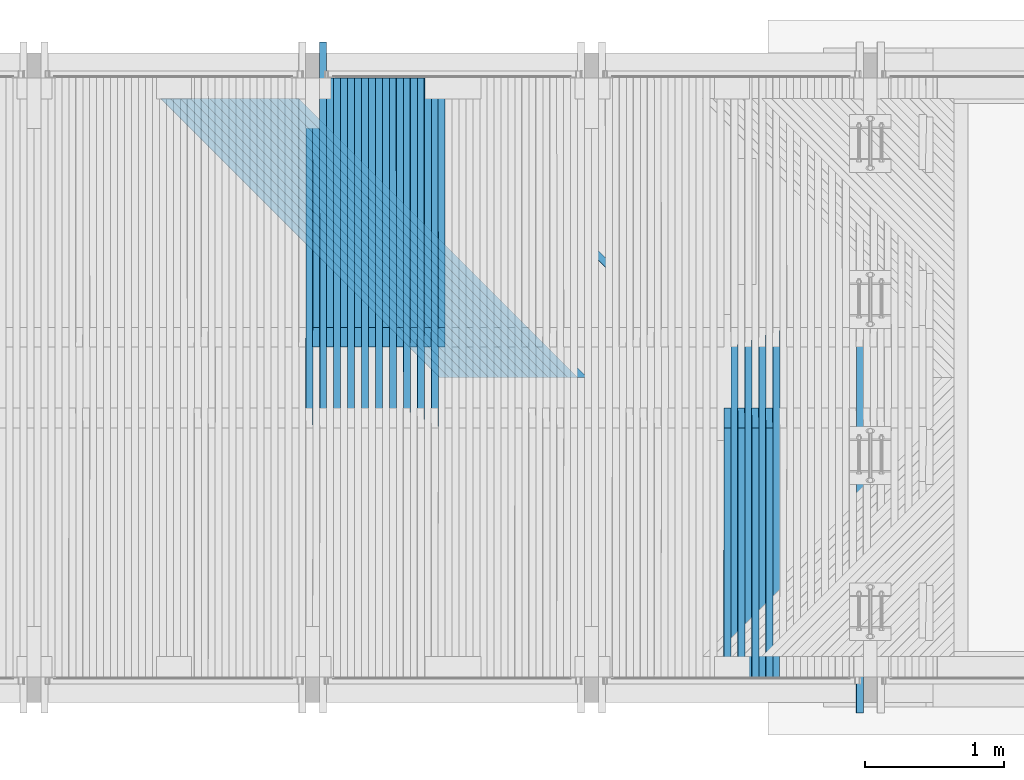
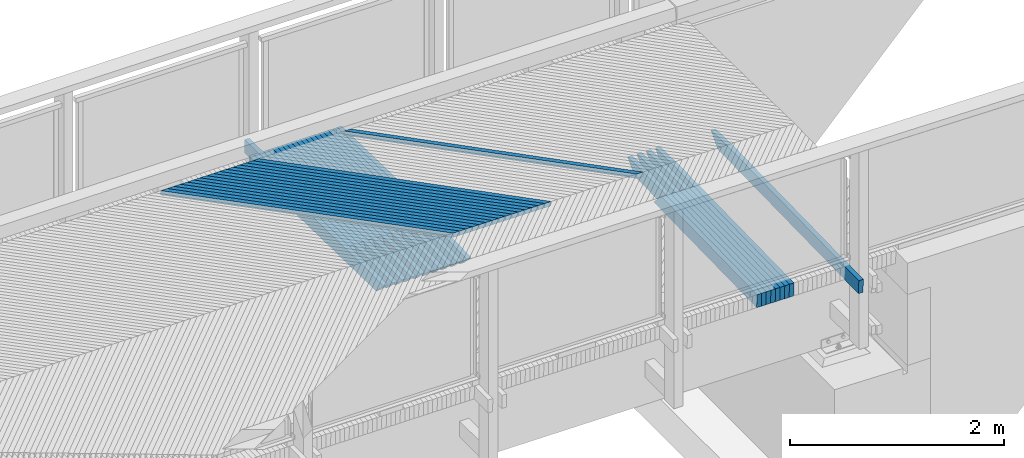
# One storey, part 43 of 65: 45 beams.
"""IFC2X3 building model written with IfcOpenShell, lengths in millimetres."""

import ifcopenshell
import ifcopenshell.guid

model = None  # the IFC model being written
_history = None  # IfcOwnerHistory: only IFC2X3 demands one
_inside = {}  # id of a spatial element -> (the spatial element, [elements in it])
_under = {}  # id of a project, library or spatial element -> (it, [spatial elements below it])
_declared = {}  # id of a project -> (the project, [libraries it declares])
_typed = {}  # id of a type object -> (the type object, [elements of that type])
_made_of = {}  # id of a material, layer set ... -> (it, [elements and type objects made of it])


def new_model(schema):
    """Start an empty IFC model of exactly this schema.

    Asked for "IFC4X3", IfcOpenShell would pick the latest addendum, in which some entities
    have other attributes; the version numbers below select the first issue.
    IFC2X3 requires an IfcOwnerHistory on every rooted entity: one is made here for all.
    """
    global model, _history
    if schema == "IFC4X3":
        model = ifcopenshell.file(schema_version=(4, 3, 0, 0))
    else:
        model = ifcopenshell.file(schema=schema)
    _inside.clear()
    _under.clear()
    _declared.clear()
    _typed.clear()
    _made_of.clear()
    _history = None
    if model.schema == "IFC2X3":
        org = make("IfcOrganization", Name="unknown")
        user = make(
            "IfcPersonAndOrganization",
            ThePerson=make("IfcPerson", FamilyName="unknown"),
            TheOrganization=org,
        )
        app = make(
            "IfcApplication",
            ApplicationDeveloper=org,
            Version="unknown",
            ApplicationFullName="unknown",
            ApplicationIdentifier="unknown",
        )
        _history = make(
            "IfcOwnerHistory",
            OwningUser=user,
            OwningApplication=app,
            ChangeAction="ADDED",
            CreationDate=0,
        )
    return model


def make(cls, **values):
    """One entity of the class cls with the attributes given. An attribute that is None is left unset."""
    return model.create_entity(
        cls, **{name: value for name, value in values.items() if value is not None}
    )


def rooted(cls, **values):
    """An entity with a GlobalId (a new one), such as an element, a storey or a relation."""
    return make(cls, GlobalId=ifcopenshell.guid.new(), OwnerHistory=_history, **values)


def si_unit(unit_type, name, prefix=None):
    """IfcSIUnit, for example si_unit("LENGTHUNIT", "METRE", prefix="MILLI")."""
    return make("IfcSIUnit", UnitType=unit_type, Prefix=prefix, Name=name)


def assignment(units):
    """IfcUnitAssignment: the units of a project."""
    return None if units is None else make("IfcUnitAssignment", Units=units)


def point(xyz):
    """IfcCartesianPoint."""
    return None if xyz is None else make("IfcCartesianPoint", Coordinates=xyz)


def direction(xyz):
    """IfcDirection."""
    return None if xyz is None else make("IfcDirection", DirectionRatios=xyz)


def frame(location, z_axis=None, x_axis=None):
    """IfcAxis2Placement3D, a coordinate frame: its origin and axes. An axis left out is left unset."""
    return make(
        "IfcAxis2Placement3D",
        Location=point(location),
        Axis=direction(z_axis),
        RefDirection=direction(x_axis),
    )


def origin_with_axes():
    """The frame at (0, 0, 0) with the z axis (0, 0, 1) and the x axis (1, 0, 0) written out."""
    return frame((0.0, 0.0, 0.0), z_axis=(0.0, 0.0, 1.0), x_axis=(1.0, 0.0, 0.0))


def place(relative_to, where):
    """IfcLocalPlacement: puts the frame where relative to a parent placement (None: the world)."""
    return make(
        "IfcLocalPlacement", PlacementRelTo=relative_to, RelativePlacement=where
    )


def context(
    kind, dimensions, precision=None, world=None, true_north=None, identifier=None
):
    """IfcGeometricRepresentationContext, for example the 3D "Model" context."""
    return make(
        "IfcGeometricRepresentationContext",
        ContextIdentifier=identifier,
        ContextType=kind,
        CoordinateSpaceDimension=dimensions,
        Precision=precision,
        WorldCoordinateSystem=world,
        TrueNorth=true_north,
    )


def subcontext(parent, identifier, kind, view, scale=None):
    """IfcGeometricRepresentationSubContext, for example "Body" below "Model"."""
    return make(
        "IfcGeometricRepresentationSubContext",
        ContextIdentifier=identifier,
        ContextType=kind,
        ParentContext=parent,
        TargetScale=scale,
        TargetView=view,
    )


def project(units=None, contexts=None):
    """IfcProject with its units and contexts."""
    return rooted(
        "IfcProject",
        Name="project",
        RepresentationContexts=contexts,
        UnitsInContext=assignment(units),
    )


def spatial(cls, under=None, at=None, **own):
    """A site, building, storey or space (cls), placed at a placement, below another one or the project."""
    s = rooted(cls, ObjectPlacement=at, **own)
    if under is not None:
        _under.setdefault(under.id(), (under, []))[1].append(s)
    return s


def faces_of(points, faces, orient=None, outer=None):
    """IfcFace entities. A face is a list of loops; a loop is a list of indices into points, from 0.

    orient and outer hold one flag for each loop. By default every Orientation is true, the
    first loop of a face is its IfcFaceOuterBound and the others are IfcFaceBound.
    """
    made = []
    for i, loops in enumerate(faces):
        bounds = []
        for j, loop in enumerate(loops):
            is_outer = j == 0 if outer is None else outer[i][j]
            bounds.append(
                make(
                    "IfcFaceOuterBound" if is_outer else "IfcFaceBound",
                    Bound=make("IfcPolyLoop", Polygon=[points[k] for k in loop]),
                    Orientation=True if orient is None else orient[i][j],
                )
            )
        made.append(make("IfcFace", Bounds=bounds))
    return made


def faceted_brep(points, faces, orient=None, outer=None, voids=None):
    """IfcFacetedBrep: a solid bounded by flat faces; with voids (closed shells), ...WithVoids."""
    shared = [point(p) for p in points]
    hull = make("IfcClosedShell", CfsFaces=faces_of(shared, faces, orient, outer))
    if voids is None:
        return make("IfcFacetedBrep", Outer=hull)
    return make(
        "IfcFacetedBrepWithVoids",
        Outer=hull,
        Voids=[
            make(cls, CfsFaces=faces_of(shared, fs, o, b)) for cls, fs, o, b in voids
        ],
    )


def shape(context_of_items, identifier, shape_type, items):
    """IfcShapeRepresentation: the items that make up one representation, for example the "Body"."""
    return make(
        "IfcShapeRepresentation",
        ContextOfItems=context_of_items,
        RepresentationIdentifier=identifier,
        RepresentationType=shape_type,
        Items=items,
    )


def material(Name=None, Category=None):
    """IfcMaterial."""
    return make("IfcMaterial", Name=Name, Category=Category)


def made_of(thing, what):
    """Note that an element or type object is made of a material, layer set ...; save() writes the relation."""
    if what is not None:
        _made_of.setdefault(what.id(), (what, []))[1].append(thing)
    return thing


def type_object(cls, material=None, **own):
    """A type object (cls), such as IfcWallType, which elements share."""
    return made_of(rooted(cls, **own), material)


def element(
    cls,
    number,
    at=None,
    inside=None,
    cuts=None,
    type_object=None,
    material=None,
    context=None,
    identifier="Body",
    shape_type=None,
    held_by="IfcProductDefinitionShape",
    body=None,
    shapes=None,
    **own,
):
    """One element of the class cls, such as IfcWall. Its Tag is "e" and its number.

    at: its placement. inside: the storey or other place that contains it. cuts: it is an
    opening in that element (IfcRelVoidsElement). A single representation is given by context,
    identifier, shape_type and body (its items); several are given by shapes. held_by: the class
    of the entity that holds the representations. save() writes the other relations.
    """
    e = rooted(cls, Tag="e%d" % number, ObjectPlacement=at, **own)
    if body is not None:
        shapes = [shape(context, identifier, shape_type, body)]
    if shapes is not None:
        e.Representation = make(held_by, Representations=shapes)
    if inside is not None:
        _inside.setdefault(inside.id(), (inside, []))[1].append(e)
    if cuts is not None:
        rooted(
            "IfcRelVoidsElement", RelatingBuildingElement=cuts, RelatedOpeningElement=e
        )
    if type_object is not None:
        _typed.setdefault(type_object.id(), (type_object, []))[1].append(e)
    return made_of(e, material)


def aggregate(whole, parts):
    """IfcRelAggregates: a whole, such as a stair, and the parts it consists of."""
    return rooted("IfcRelAggregates", RelatingObject=whole, RelatedObjects=parts)


def save(model, path):
    """Write the relations noted so far, then the file.

    IfcRelAggregates (storeys below a building ...), IfcRelContainedInSpatialStructure (elements
    in a storey), IfcRelDefinesByType, IfcRelAssociatesMaterial and IfcRelDeclares: one each for
    every whole, place, type object, material and project.
    """
    for whole, parts in _under.values():
        aggregate(whole, parts)
    for where, things in _inside.values():
        rooted(
            "IfcRelContainedInSpatialStructure",
            RelatedElements=things,
            RelatingStructure=where,
        )
    for kind, things in _typed.values():
        rooted("IfcRelDefinesByType", RelatedObjects=things, RelatingType=kind)
    for what, things in _made_of.values():
        rooted("IfcRelAssociatesMaterial", RelatedObjects=things, RelatingMaterial=what)
    for by, libraries in _declared.values():
        rooted("IfcRelDeclares", RelatingContext=by, RelatedDefinitions=libraries)
    model.write(path)


model = new_model("IFC2X3")

# Units and contexts
model_context = context("Model", 3, precision=1e-05, world=origin_with_axes())
body_context = subcontext(model_context, "Body", "Model", "MODEL_VIEW")
ifc_project = project(units=[si_unit("LENGTHUNIT", "METRE", prefix="MILLI"), si_unit("AREAUNIT", "SQUARE_METRE"), si_unit("VOLUMEUNIT", "CUBIC_METRE"), si_unit("MASSUNIT", "GRAM", prefix="KILO"), si_unit("TIMEUNIT", "SECOND"), si_unit("PLANEANGLEUNIT", "RADIAN"), si_unit("SOLIDANGLEUNIT", "STERADIAN"), si_unit("THERMODYNAMICTEMPERATUREUNIT", "DEGREE_CELSIUS"), si_unit("LUMINOUSINTENSITYUNIT", "LUMEN")], contexts=[model_context])

# Site, building, storey
site_placement = place(None, origin_with_axes())
site = spatial("IfcSite", under=ifc_project, at=site_placement, Name="Undefined", CompositionType="ELEMENT")
building_placement = place(site_placement, origin_with_axes())
building = spatial("IfcBuilding", under=site, at=building_placement, Name="Undefined", CompositionType="ELEMENT")
storey_placement = place(building_placement, origin_with_axes())
storey = spatial("IfcBuildingStorey", under=building, at=storey_placement, Name="Undefined", CompositionType="ELEMENT", Elevation=0.0)

# Beams
ifc_material = material(Name="TIMBER/Timber_Undefined")
beam_type_1 = type_object("IfcBeamType", Name="50*50", PredefinedType="NOTDEFINED")
for number, where, z_axis, x_axis, name in (
    (1, (14925.1802800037, 22365.4998996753, 3196.29569063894), (0.706919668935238, 0.706981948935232, -0.0210025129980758), (-0.707227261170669, 0.706948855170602, -0.00727442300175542), "BEAM"),
    (2, (13935.0975862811, 22365.4998996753, 3206.86972998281), (0.706953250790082, 0.706981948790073, -0.019839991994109), (-0.707214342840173, 0.706948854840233, -0.00843741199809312), "BEAM"),
    (3, (13864.3767480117, 22365.4998996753, 3207.56271699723), (0.706955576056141, 0.706981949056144, -0.019756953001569), (-0.707213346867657, 0.706948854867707, -0.00852048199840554), "BEAM"),
    (4, (13793.6558288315, 22365.4998996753, 3208.24739709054), (0.706957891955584, 0.706981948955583, -0.019673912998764), (-0.70721234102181, 0.706948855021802, -0.00860355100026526), "BEAM"),
    (5, (13722.9348297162, 22365.4998996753, 3208.92377025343), (0.706960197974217, 0.706981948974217, -0.0195908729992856), (-0.7072113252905, 0.706948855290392, -0.00868662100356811), "BEAM"),
    (6, (13652.2137516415, 22365.4998996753, 3209.5918364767), (0.70696249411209, 0.706981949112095, -0.0195078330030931), (-0.707210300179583, 0.706948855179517, -0.0087696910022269), "BEAM"),
    (7, (13581.4925955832, 22365.4998996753, 3210.25159575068), (0.706964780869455, 0.706981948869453, -0.0194247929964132), (-0.707209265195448, 0.706948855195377, -0.00885276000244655), "BEAM"),
    (8, (13510.771362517, 22365.4998996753, 3210.90304806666), (0.706967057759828, 0.706981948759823, -0.019341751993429), (-0.707208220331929, 0.706948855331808, -0.00893582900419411), "BEAM"),
    (9, (13440.0500534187, 22365.4998996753, 3211.54619341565), (0.706969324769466, 0.706981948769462, -0.0192587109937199), (-0.707207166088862, 0.706948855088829, -0.00901889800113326), "BEAM"),
    (10, (13369.3286692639, 22365.4998996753, 3212.18103178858), (0.706971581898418, 0.706981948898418, -0.0191756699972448), (-0.707206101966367, 0.70694885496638, -0.00910196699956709), "BEAM"),
    (11, (13298.6072110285, 22365.4998996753, 3212.80756317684), (0.706973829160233, 0.706981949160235, -0.0190926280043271), (-0.707205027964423, 0.706948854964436, -0.00918503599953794), "BEAM"),
    (12, (13227.8856796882, 22365.4998996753, 3213.42578757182), (0.706976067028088, 0.70698194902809, -0.0190095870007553), (-0.707203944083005, 0.706948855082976, -0.00926810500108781), "BEAM"),
    (13, (13157.1640762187, 22365.4998996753, 3214.03570496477), (0.70697829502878, 0.70698194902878, -0.0189265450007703), (-0.707202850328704, 0.706948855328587, -0.00935117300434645), "BEAM"),
    (14, (13086.4424015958, 22365.4998996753, 3214.63731534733), (0.706980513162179, 0.70698194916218, -0.0188435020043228), (-0.707201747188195, 0.706948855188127, -0.00943424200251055), "BEAM"),
    (15, (13015.7206567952, 22365.4998996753, 3215.23061871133), (0.706982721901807, 0.706981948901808, -0.0187604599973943), (-0.707200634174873, 0.706948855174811, -0.00951731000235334), "BEAM"),
    (16, (12944.9988427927, 22365.4998996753, 3215.81561504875), (0.706984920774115, 0.706981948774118, -0.0186774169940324), (-0.707199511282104, 0.706948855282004, -0.00960037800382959), "BEAM"),
):
    element("IfcBeam", number, at=place(storey_placement, frame(where, z_axis=z_axis, x_axis=x_axis)), inside=storey, type_object=beam_type_1, material=ifc_material, Name=name, ObjectType="50*50", context=body_context, shape_type="Brep", body=[
        faceted_brep([(23.5869248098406, 24.9999999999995, -24.9999999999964), (-26.4154158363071, 24.9999999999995, 24.9999999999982), (2802.92643296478, 25.0, 25.0), (2852.92877373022, 25.0000000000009, -25.0), (-25.0011704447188, -25.0, 24.9999999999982), (2804.34067830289, -25.0, 25.0000000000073), (25.0011701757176, -25.0000000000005, -24.9999999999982), (2854.34301907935, -24.9999999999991, -25.0000000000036)], [[[0, 1, 2, 3]], [[1, 4, 5, 2]], [[4, 6, 7, 5]], [[6, 0, 3, 7]], [[5, 7, 3, 2]], [[6, 4, 1, 0]]]),
    ])
beam_type_2 = type_object("IfcBeamType", Name="150*50", PredefinedType="NOTDEFINED")
beam_1_placement = place(storey_placement, frame((15274.6563525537, 20216.5046076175, 3049.1800909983), z_axis=(0.0120050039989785, -0.0199960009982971, 0.999727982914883), x_axis=(0.000240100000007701, 0.999800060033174, 0.0199945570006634)))
element("IfcBeam", 17, at=beam_1_placement, inside=storey, type_object=beam_type_2, material=ifc_material, Name="BEAM", ObjectType="150*50", context=body_context, shape_type="Brep", body=[
    faceted_brep([(-1.6778358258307e-07, -24.9999999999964, -74.9999999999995), (1.67790858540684e-07, -24.9999999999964, 75.0000000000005), (1.67790858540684e-07, 25.0000000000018, 74.9999999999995), (-1.6778358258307e-07, 25.0000000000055, -75.0), (1789.96936433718, -25.0000000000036, 74.9999999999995), (1789.96936408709, 24.9999999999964, 75.0), (1928.42646328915, 24.9999999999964, -75.0), (1928.42646353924, -25.0, -75.0000000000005)], [[[0, 1, 2, 3]], [[2, 1, 4, 5]], [[3, 2, 5, 6]], [[0, 3, 6, 7]], [[1, 0, 7, 4]], [[6, 5, 4, 7]]]),
])
beam_2_placement = place(storey_placement, frame((15324.672679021, 20216.5046076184, 3048.57117152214), z_axis=(0.0121711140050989, -0.0199960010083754, 0.999725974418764), x_axis=(0.000243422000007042, 0.999800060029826, 0.0199945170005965)))
element("IfcBeam", 18, at=beam_2_placement, inside=storey, type_object=beam_type_2, material=ifc_material, Name="BEAM", ObjectType="150*50", context=body_context, shape_type="Brep", body=[
    faceted_brep([(-1.6778358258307e-07, -24.9999999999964, -74.9999999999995), (1.67790858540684e-07, -24.9999999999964, 75.0000000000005), (1.67790858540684e-07, 25.0000000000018, 74.9999999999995), (-1.6778358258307e-07, 25.0000000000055, -75.0), (2375.00494422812, 25.0000000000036, -75.0), (2375.00494447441, -24.9999999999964, -74.9999999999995), (2510.59248714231, -24.9999999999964, 60.5875430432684), (2150.42514405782, -24.9999999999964, 75.0000000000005), (2150.42515052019, 25.0000000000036, 74.9999999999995), (2510.59248715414, 25.0000000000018, 60.5875433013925)], [[[0, 1, 2, 3]], [[0, 3, 4, 5]], [[1, 0, 5, 6, 7]], [[2, 1, 7, 8]], [[4, 3, 2, 8, 9]], [[5, 4, 9, 6]], [[6, 9, 8, 7]]]),
])
beam_3_placement = place(storey_placement, frame((15174.6435245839, 20216.5046076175, 3050.38050520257), z_axis=(0.0118388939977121, -0.0199960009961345, 0.999729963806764), x_axis=(0.0002367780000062, 0.999800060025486, 0.0199945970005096)))
element("IfcBeam", 19, at=beam_3_placement, inside=storey, type_object=beam_type_2, material=ifc_material, Name="BEAM", ObjectType="150*50", context=body_context, shape_type="Brep", body=[
    faceted_brep([(-1.6778358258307e-07, -24.9999999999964, -74.9999999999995), (1.67790858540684e-07, -24.9999999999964, 75.0000000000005), (1.67790858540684e-07, 25.0000000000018, 74.9999999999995), (-1.6778358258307e-07, 25.0000000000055, -75.0), (1789.96936433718, -25.0000000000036, 74.9999999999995), (1789.96936408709, 24.9999999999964, 75.0), (1928.42646328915, 24.9999999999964, -75.0), (1928.42646353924, -25.0, -75.0000000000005)], [[[0, 1, 2, 3]], [[2, 1, 4, 5]], [[3, 2, 5, 6]], [[0, 3, 6, 7]], [[1, 0, 7, 4]], [[6, 5, 4, 7]]]),
])
beam_4_placement = place(storey_placement, frame((15224.659951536, 20216.5046076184, 3049.77989621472), z_axis=(0.0120050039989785, -0.0199960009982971, 0.999727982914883), x_axis=(0.000240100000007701, 0.999800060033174, 0.0199945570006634)))
element("IfcBeam", 20, at=beam_4_placement, inside=storey, type_object=beam_type_2, material=ifc_material, Name="BEAM", ObjectType="150*50", context=body_context, shape_type="Brep", body=[
    faceted_brep([(-1.6778358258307e-07, -24.9999999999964, -74.9999999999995), (1.67790858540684e-07, -24.9999999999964, 75.0000000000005), (1.67790858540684e-07, 25.0000000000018, 74.9999999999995), (-1.6778358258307e-07, 25.0000000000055, -75.0), (2375.00494422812, 25.0000000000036, -75.0), (2375.00494447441, -24.9999999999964, -74.9999999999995), (2510.59248714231, -24.9999999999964, 60.5875430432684), (2150.42514405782, -24.9999999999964, 75.0000000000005), (2150.42515052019, 25.0000000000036, 74.9999999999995), (2510.59248715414, 25.0000000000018, 60.5875433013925)], [[[0, 1, 2, 3]], [[0, 3, 4, 5]], [[1, 0, 5, 6, 7]], [[2, 1, 7, 8]], [[4, 3, 2, 8, 9]], [[5, 4, 9, 6]], [[6, 9, 8, 7]]]),
])
beam_5_placement = place(storey_placement, frame((15074.6304985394, 20216.5046076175, 3051.56430172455), z_axis=(0.0116727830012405, -0.0199960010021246, 0.999731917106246), x_axis=(0.000233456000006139, 0.999800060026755, 0.0199946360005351)))
element("IfcBeam", 21, at=beam_5_placement, inside=storey, type_object=beam_type_2, material=ifc_material, Name="BEAM", ObjectType="150*50", context=body_context, shape_type="Brep", body=[
    faceted_brep([(-1.6778358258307e-07, -24.9999999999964, -74.9999999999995), (1.67790858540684e-07, -24.9999999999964, 75.0000000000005), (1.67790858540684e-07, 25.0000000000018, 74.9999999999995), (-1.6778358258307e-07, 25.0000000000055, -75.0), (1789.96936433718, -25.0000000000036, 74.9999999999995), (1789.96936408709, 24.9999999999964, 75.0), (1928.42646328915, 24.9999999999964, -75.0), (1928.42646353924, -25.0, -75.0000000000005)], [[[0, 1, 2, 3]], [[2, 1, 4, 5]], [[3, 2, 5, 6]], [[0, 3, 6, 7]], [[1, 0, 7, 4]], [[6, 5, 4, 7]]]),
])
beam_6_placement = place(storey_placement, frame((15124.6470245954, 20216.5046076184, 3050.97200324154), z_axis=(0.0118388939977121, -0.0199960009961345, 0.999729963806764), x_axis=(0.0002367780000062, 0.999800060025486, 0.0199945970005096)))
element("IfcBeam", 22, at=beam_6_placement, inside=storey, type_object=beam_type_2, material=ifc_material, Name="BEAM", ObjectType="150*50", context=body_context, shape_type="Brep", body=[
    faceted_brep([(-1.6778358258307e-07, -24.9999999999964, -74.9999999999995), (1.67790858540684e-07, -24.9999999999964, 75.0000000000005), (1.67790858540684e-07, 25.0000000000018, 74.9999999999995), (-1.6778358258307e-07, 25.0000000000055, -75.0), (2375.00494422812, 25.0000000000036, -75.0), (2375.00494447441, -24.9999999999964, -74.9999999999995), (2510.59248714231, -24.9999999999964, 60.5875430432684), (2150.42514405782, -24.9999999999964, 75.0000000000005), (2150.42515052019, 25.0000000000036, 74.9999999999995), (2510.59248715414, 25.0000000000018, 60.5875433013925)], [[[0, 1, 2, 3]], [[0, 3, 4, 5]], [[1, 0, 5, 6, 7]], [[2, 1, 7, 8]], [[4, 3, 2, 8, 9]], [[5, 4, 9, 6]], [[6, 9, 8, 7]]]),
])
beam_7_placement = place(storey_placement, frame((14974.6172771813, 20216.5046076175, 3052.73148053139), z_axis=(0.0115066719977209, -0.0199960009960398, 0.999733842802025), x_axis=(0.00023013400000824, 0.999800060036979, 0.0199946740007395)))
element("IfcBeam", 23, at=beam_7_placement, inside=storey, type_object=beam_type_2, material=ifc_material, Name="BEAM", ObjectType="150*50", context=body_context, shape_type="Brep", body=[
    faceted_brep([(-1.6778358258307e-07, -24.9999999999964, -74.9999999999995), (1.67790858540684e-07, -24.9999999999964, 75.0000000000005), (1.67790858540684e-07, 25.0000000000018, 74.9999999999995), (-1.6778358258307e-07, 25.0000000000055, -75.0), (1789.96936433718, -25.0000000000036, 74.9999999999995), (1789.96936408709, 24.9999999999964, 75.0), (1928.42646328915, 24.9999999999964, -75.0), (1928.42646353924, -25.0, -75.0000000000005)], [[[0, 1, 2, 3]], [[2, 1, 4, 5]], [[3, 2, 5, 6]], [[0, 3, 6, 7]], [[1, 0, 7, 4]], [[6, 5, 4, 7]]]),
])
beam_8_placement = place(storey_placement, frame((15024.6339009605, 20216.5046076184, 3052.14749256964), z_axis=(0.0116727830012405, -0.0199960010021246, 0.999731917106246), x_axis=(0.000233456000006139, 0.999800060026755, 0.0199946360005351)))
element("IfcBeam", 24, at=beam_8_placement, inside=storey, type_object=beam_type_2, material=ifc_material, Name="BEAM", ObjectType="150*50", context=body_context, shape_type="Brep", body=[
    faceted_brep([(-1.6778358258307e-07, -24.9999999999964, -74.9999999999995), (1.67790858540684e-07, -24.9999999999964, 75.0000000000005), (1.67790858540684e-07, 25.0000000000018, 74.9999999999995), (-1.6778358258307e-07, 25.0000000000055, -75.0), (2375.00494422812, 25.0000000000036, -75.0), (2375.00494447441, -24.9999999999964, -74.9999999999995), (2510.59248714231, -24.9999999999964, 60.5875430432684), (2150.42514405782, -24.9999999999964, 75.0000000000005), (2150.42515052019, 25.0000000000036, 74.9999999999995), (2510.59248715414, 25.0000000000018, 60.5875433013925)], [[[0, 1, 2, 3]], [[0, 3, 4, 5]], [[1, 0, 5, 6, 7]], [[2, 1, 7, 8]], [[4, 3, 2, 8, 9]], [[5, 4, 9, 6]], [[6, 9, 8, 7]]]),
])
beam_9_placement = place(storey_placement, frame((12874.8994002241, 24513.4953923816, 3073.40458690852), z_axis=(0.00801827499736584, 0.0199960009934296, 0.999767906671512), x_axis=(0.0001603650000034, -0.999800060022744, 0.0199953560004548)))
element("IfcBeam", 25, at=beam_9_placement, inside=storey, type_object=beam_type_2, material=ifc_material, Name="BEAM", ObjectType="150*50", context=body_context, shape_type="Brep", body=[
    faceted_brep([(-1.6778358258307e-07, -24.9999999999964, -74.9999999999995), (-1.6778358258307e-07, 25.0000000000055, -75.0), (2375.00494422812, 25.0000000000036, -75.0), (2375.00494447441, -24.9999999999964, -74.9999999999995), (1.67790858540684e-07, -24.9999999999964, 75.0000000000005), (1.67790858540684e-07, 25.0000000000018, 74.9999999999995), (2150.42515052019, 25.0000000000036, 74.9999999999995), (2510.59248715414, 25.0000000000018, 60.5875433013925), (2510.59248714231, -24.9999999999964, 60.5875430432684), (2150.42514405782, -24.9999999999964, 75.0000000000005)], [[[0, 1, 2, 3]], [[0, 4, 5, 1]], [[2, 1, 5, 6, 7]], [[3, 2, 7, 8]], [[4, 0, 3, 8, 9]], [[5, 4, 9, 6]], [[8, 7, 6, 9]]]),
])
beam_10_placement = place(storey_placement, frame((12924.9177572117, 24513.4953923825, 3072.99512326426), z_axis=(0.00818439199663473, 0.0199960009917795, 0.999766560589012), x_axis=(0.000163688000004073, -0.999800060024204, 0.019995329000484)))
element("IfcBeam", 26, at=beam_10_placement, inside=storey, type_object=beam_type_2, material=ifc_material, Name="BEAM", ObjectType="150*50", context=body_context, shape_type="Brep", body=[
    faceted_brep([(-1.6778358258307e-07, -24.9999999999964, -74.9999999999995), (1.67790858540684e-07, -24.9999999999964, 75.0000000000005), (1.67790858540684e-07, 25.0000000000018, 74.9999999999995), (-1.6778358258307e-07, 25.0000000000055, -75.0), (1789.96936408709, 24.9999999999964, 75.0), (1928.42646328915, 24.9999999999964, -75.0), (1928.42646353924, -25.0, -75.0000000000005), (1789.96936433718, -25.0000000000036, 74.9999999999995)], [[[0, 1, 2, 3]], [[3, 2, 4, 5]], [[0, 3, 5, 6]], [[1, 0, 6, 7]], [[2, 1, 7, 4]], [[5, 4, 7, 6]]]),
])
beam_11_placement = place(storey_placement, frame((12774.8825803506, 24513.4953923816, 3074.20626833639), z_axis=(0.00785215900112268, 0.0199960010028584, 0.99976922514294), x_axis=(0.00015704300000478, -0.999800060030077, 0.0199953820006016)))
element("IfcBeam", 27, at=beam_11_placement, inside=storey, type_object=beam_type_2, material=ifc_material, Name="BEAM", ObjectType="150*50", context=body_context, shape_type="Brep", body=[
    faceted_brep([(-1.6778358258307e-07, -24.9999999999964, -74.9999999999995), (-1.6778358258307e-07, 25.0000000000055, -75.0), (2375.00494422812, 25.0000000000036, -75.0), (2375.00494447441, -24.9999999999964, -74.9999999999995), (1.67790858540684e-07, -24.9999999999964, 75.0000000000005), (1.67790858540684e-07, 25.0000000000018, 74.9999999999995), (2150.42515052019, 25.0000000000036, 74.9999999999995), (2510.59248715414, 25.0000000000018, 60.5875433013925), (2510.59248714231, -24.9999999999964, 60.5875430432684), (2150.42514405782, -24.9999999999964, 75.0000000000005)], [[[0, 1, 2, 3]], [[0, 4, 5, 1]], [[2, 1, 5, 6, 7]], [[3, 2, 7, 8]], [[4, 0, 3, 8, 9]], [[5, 4, 9, 6]], [[8, 7, 6, 9]]]),
])
beam_12_placement = place(storey_placement, frame((12824.9010046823, 24513.4953923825, 3073.80511551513), z_axis=(0.00801827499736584, 0.0199960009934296, 0.999767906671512), x_axis=(0.0001603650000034, -0.999800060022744, 0.0199953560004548)))
element("IfcBeam", 28, at=beam_12_placement, inside=storey, type_object=beam_type_2, material=ifc_material, Name="BEAM", ObjectType="150*50", context=body_context, shape_type="Brep", body=[
    faceted_brep([(-1.6778358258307e-07, -24.9999999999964, -74.9999999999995), (1.67790858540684e-07, -24.9999999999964, 75.0000000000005), (1.67790858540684e-07, 25.0000000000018, 74.9999999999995), (-1.6778358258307e-07, 25.0000000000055, -75.0), (1789.96936408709, 24.9999999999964, 75.0), (1928.42646328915, 24.9999999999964, -75.0), (1928.42646353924, -25.0, -75.0000000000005), (1789.96936433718, -25.0000000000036, 74.9999999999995)], [[[0, 1, 2, 3]], [[3, 2, 4, 5]], [[0, 3, 5, 6]], [[1, 0, 6, 7]], [[2, 1, 7, 4]], [[5, 4, 7, 6]]]),
])
beam_13_placement = place(storey_placement, frame((12674.8656286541, 24513.4953923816, 3074.99133142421), z_axis=(0.00768604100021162, 0.0199960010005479, 0.999770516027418), x_axis=(0.000153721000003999, -0.999800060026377, 0.0199954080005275)))
element("IfcBeam", 29, at=beam_13_placement, inside=storey, type_object=beam_type_2, material=ifc_material, Name="BEAM", ObjectType="150*50", context=body_context, shape_type="Brep", body=[
    faceted_brep([(-1.6778358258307e-07, -24.9999999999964, -74.9999999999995), (-1.6778358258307e-07, 25.0000000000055, -75.0), (2375.00494422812, 25.0000000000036, -75.0), (2375.00494447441, -24.9999999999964, -74.9999999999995), (1.67790858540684e-07, -24.9999999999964, 75.0000000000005), (1.67790858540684e-07, 25.0000000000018, 74.9999999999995), (2150.42515052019, 25.0000000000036, 74.9999999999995), (2510.59248715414, 25.0000000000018, 60.5875433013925), (2510.59248714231, -24.9999999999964, 60.5875430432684), (2150.42514405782, -24.9999999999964, 75.0000000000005)], [[[0, 1, 2, 3]], [[0, 4, 5, 1]], [[2, 1, 5, 6, 7]], [[3, 2, 7, 8]], [[4, 0, 3, 8, 9]], [[5, 4, 9, 6]], [[8, 7, 6, 9]]]),
])
beam_14_placement = place(storey_placement, frame((12724.884118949, 24513.4953923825, 3074.5984894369), z_axis=(0.00785215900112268, 0.0199960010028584, 0.99976922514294), x_axis=(0.00015704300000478, -0.999800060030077, 0.0199953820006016)))
element("IfcBeam", 30, at=beam_14_placement, inside=storey, type_object=beam_type_2, material=ifc_material, Name="BEAM", ObjectType="150*50", context=body_context, shape_type="Brep", body=[
    faceted_brep([(-1.6778358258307e-07, -24.9999999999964, -74.9999999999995), (1.67790858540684e-07, -24.9999999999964, 75.0000000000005), (1.67790858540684e-07, 25.0000000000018, 74.9999999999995), (-1.6778358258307e-07, 25.0000000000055, -75.0), (1789.96936408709, 24.9999999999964, 75.0), (1928.42646328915, 24.9999999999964, -75.0), (1928.42646353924, -25.0, -75.0000000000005), (1789.96936433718, -25.0000000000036, 74.9999999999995)], [[[0, 1, 2, 3]], [[3, 2, 4, 5]], [[0, 3, 5, 6]], [[1, 0, 6, 7]], [[2, 1, 7, 4]], [[5, 4, 7, 6]]]),
])
beam_15_placement = place(storey_placement, frame((12574.8485478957, 24513.4953923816, 3075.75977614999), z_axis=(0.00751992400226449, 0.0199960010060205, 0.99977177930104), x_axis=(0.000150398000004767, -0.999800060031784, 0.0199954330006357)))
element("IfcBeam", 31, at=beam_15_placement, inside=storey, type_object=beam_type_2, material=ifc_material, Name="BEAM", ObjectType="150*50", context=body_context, shape_type="Brep", body=[
    faceted_brep([(-1.6778358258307e-07, -24.9999999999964, -74.9999999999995), (-1.6778358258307e-07, 25.0000000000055, -75.0), (2375.00494422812, 25.0000000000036, -75.0), (2375.00494447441, -24.9999999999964, -74.9999999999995), (1.67790858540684e-07, -24.9999999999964, 75.0000000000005), (1.67790858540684e-07, 25.0000000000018, 74.9999999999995), (2150.42515052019, 25.0000000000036, 74.9999999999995), (2510.59248715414, 25.0000000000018, 60.5875433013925), (2510.59248714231, -24.9999999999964, 60.5875430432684), (2150.42514405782, -24.9999999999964, 75.0000000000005)], [[[0, 1, 2, 3]], [[0, 4, 5, 1]], [[2, 1, 5, 6, 7]], [[3, 2, 7, 8]], [[4, 0, 3, 8, 9]], [[5, 4, 9, 6]], [[8, 7, 6, 9]]]),
])
beam_16_placement = place(storey_placement, frame((12624.8671027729, 24513.4953923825, 3075.37524500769), z_axis=(0.00768604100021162, 0.0199960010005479, 0.999770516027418), x_axis=(0.000153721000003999, -0.999800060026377, 0.0199954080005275)))
element("IfcBeam", 32, at=beam_16_placement, inside=storey, type_object=beam_type_2, material=ifc_material, Name="BEAM", ObjectType="150*50", context=body_context, shape_type="Brep", body=[
    faceted_brep([(-1.6778358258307e-07, -24.9999999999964, -74.9999999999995), (1.67790858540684e-07, -24.9999999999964, 75.0000000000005), (1.67790858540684e-07, 25.0000000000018, 74.9999999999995), (-1.6778358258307e-07, 25.0000000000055, -75.0), (1789.96936408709, 24.9999999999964, 75.0), (1928.42646328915, 24.9999999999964, -75.0), (1928.42646353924, -25.0, -75.0000000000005), (1789.96936433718, -25.0000000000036, 74.9999999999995)], [[[0, 1, 2, 3]], [[3, 2, 4, 5]], [[0, 3, 5, 6]], [[1, 0, 6, 7]], [[2, 1, 7, 4]], [[5, 4, 7, 6]]]),
])
beam_17_placement = place(storey_placement, frame((12474.8313408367, 24513.4953923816, 3076.51160249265), z_axis=(0.00735380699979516, 0.0199960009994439, 0.999773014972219), x_axis=(0.000147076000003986, -0.999800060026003, 0.01999545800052)))
element("IfcBeam", 33, at=beam_17_placement, inside=storey, type_object=beam_type_2, material=ifc_material, Name="BEAM", ObjectType="150*50", context=body_context, shape_type="Brep", body=[
    faceted_brep([(-1.6778358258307e-07, -24.9999999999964, -74.9999999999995), (-1.6778358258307e-07, 25.0000000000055, -75.0), (2375.00494422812, 25.0000000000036, -75.0), (2375.00494447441, -24.9999999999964, -74.9999999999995), (1.67790858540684e-07, -24.9999999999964, 75.0000000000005), (1.67790858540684e-07, 25.0000000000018, 74.9999999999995), (2150.42515052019, 25.0000000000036, 74.9999999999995), (2510.59248715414, 25.0000000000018, 60.5875433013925), (2510.59248714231, -24.9999999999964, 60.5875430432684), (2150.42514405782, -24.9999999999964, 75.0000000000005)], [[[0, 1, 2, 3]], [[0, 4, 5, 1]], [[2, 1, 5, 6, 7]], [[3, 2, 7, 8]], [[4, 0, 3, 8, 9]], [[5, 4, 9, 6]], [[8, 7, 6, 9]]]),
])
beam_18_placement = place(storey_placement, frame((12524.8499589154, 24513.4953923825, 3076.13538220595), z_axis=(0.00751992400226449, 0.0199960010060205, 0.99977177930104), x_axis=(0.000150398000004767, -0.999800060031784, 0.0199954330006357)))
element("IfcBeam", 34, at=beam_18_placement, inside=storey, type_object=beam_type_2, material=ifc_material, Name="BEAM", ObjectType="150*50", context=body_context, shape_type="Brep", body=[
    faceted_brep([(-1.6778358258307e-07, -24.9999999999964, -74.9999999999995), (1.67790858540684e-07, -24.9999999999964, 75.0000000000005), (1.67790858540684e-07, 25.0000000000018, 74.9999999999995), (-1.6778358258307e-07, 25.0000000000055, -75.0), (1789.96936408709, 24.9999999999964, 75.0), (1928.42646328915, 24.9999999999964, -75.0), (1928.42646353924, -25.0, -75.0000000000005), (1789.96936433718, -25.0000000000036, 74.9999999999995)], [[[0, 1, 2, 3]], [[3, 2, 4, 5]], [[0, 3, 5, 6]], [[1, 0, 6, 7]], [[2, 1, 7, 4]], [[5, 4, 7, 6]]]),
])
beam_19_placement = place(storey_placement, frame((12374.8140102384, 24513.4953923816, 3077.24681043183), z_axis=(0.00718768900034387, 0.0199960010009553, 0.999774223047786), x_axis=(0.000143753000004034, -0.999800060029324, 0.0199954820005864)))
element("IfcBeam", 35, at=beam_19_placement, inside=storey, type_object=beam_type_2, material=ifc_material, Name="BEAM", ObjectType="150*50", context=body_context, shape_type="Brep", body=[
    faceted_brep([(-1.6778358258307e-07, -24.9999999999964, -74.9999999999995), (-1.6778358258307e-07, 25.0000000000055, -75.0), (2375.00494422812, 25.0000000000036, -75.0), (2375.00494447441, -24.9999999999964, -74.9999999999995), (1.67790858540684e-07, -24.9999999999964, 75.0000000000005), (1.67790858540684e-07, 25.0000000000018, 74.9999999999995), (2150.42515052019, 25.0000000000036, 74.9999999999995), (2510.59248715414, 25.0000000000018, 60.5875433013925), (2510.59248714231, -24.9999999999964, 60.5875430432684), (2150.42514405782, -24.9999999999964, 75.0000000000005)], [[[0, 1, 2, 3]], [[0, 4, 5, 1]], [[2, 1, 5, 6, 7]], [[3, 2, 7, 8]], [[4, 0, 3, 8, 9]], [[5, 4, 9, 6]], [[8, 7, 6, 9]]]),
])
beam_20_placement = place(storey_placement, frame((12424.8326901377, 24513.4953923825, 3076.87890101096), z_axis=(0.00735380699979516, 0.0199960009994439, 0.999773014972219), x_axis=(0.000147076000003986, -0.999800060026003, 0.01999545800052)))
element("IfcBeam", 36, at=beam_20_placement, inside=storey, type_object=beam_type_2, material=ifc_material, Name="BEAM", ObjectType="150*50", context=body_context, shape_type="Brep", body=[
    faceted_brep([(-1.6778358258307e-07, -24.9999999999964, -74.9999999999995), (1.67790858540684e-07, -24.9999999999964, 75.0000000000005), (1.67790858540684e-07, 25.0000000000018, 74.9999999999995), (-1.6778358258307e-07, 25.0000000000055, -75.0), (1789.96936408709, 24.9999999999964, 75.0), (1928.42646328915, 24.9999999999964, -75.0), (1928.42646353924, -25.0, -75.0000000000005), (1789.96936433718, -25.0000000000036, 74.9999999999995)], [[[0, 1, 2, 3]], [[3, 2, 4, 5]], [[0, 3, 5, 6]], [[1, 0, 6, 7]], [[2, 1, 7, 4]], [[5, 4, 7, 6]]]),
])
beam_21_placement = place(storey_placement, frame((12274.796558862, 24513.4953923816, 3077.96539994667), z_axis=(0.00702157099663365, 0.0199960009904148, 0.999775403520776), x_axis=(0.000140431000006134, -0.999800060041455, 0.019995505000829)))
element("IfcBeam", 37, at=beam_21_placement, inside=storey, type_object=beam_type_2, material=ifc_material, Name="BEAM", ObjectType="150*50", context=body_context, shape_type="Brep", body=[
    faceted_brep([(-1.6778358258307e-07, -24.9999999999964, -74.9999999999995), (-1.6778358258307e-07, 25.0000000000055, -75.0), (2375.00494422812, 25.0000000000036, -75.0), (2375.00494447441, -24.9999999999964, -74.9999999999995), (1.67790858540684e-07, -24.9999999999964, 75.0000000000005), (1.67790858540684e-07, 25.0000000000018, 74.9999999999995), (2150.42515052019, 25.0000000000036, 74.9999999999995), (2510.59248715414, 25.0000000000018, 60.5875433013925), (2510.59248714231, -24.9999999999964, 60.5875430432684), (2150.42514405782, -24.9999999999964, 75.0000000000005)], [[[0, 1, 2, 3]], [[0, 4, 5, 1]], [[2, 1, 5, 6, 7]], [[3, 2, 7, 8]], [[4, 0, 3, 8, 9]], [[5, 4, 9, 6]], [[8, 7, 6, 9]]]),
])
beam_22_placement = place(storey_placement, frame((12324.8152992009, 24513.4953923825, 3077.60580140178), z_axis=(0.00718768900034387, 0.0199960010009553, 0.999774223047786), x_axis=(0.000143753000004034, -0.999800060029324, 0.0199954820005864)))
element("IfcBeam", 38, at=beam_22_placement, inside=storey, type_object=beam_type_2, material=ifc_material, Name="BEAM", ObjectType="150*50", context=body_context, shape_type="Brep", body=[
    faceted_brep([(-1.6778358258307e-07, -24.9999999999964, -74.9999999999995), (1.67790858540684e-07, -24.9999999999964, 75.0000000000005), (1.67790858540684e-07, 25.0000000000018, 74.9999999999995), (-1.6778358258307e-07, 25.0000000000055, -75.0), (1789.96936408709, 24.9999999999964, 75.0), (1928.42646328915, 24.9999999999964, -75.0), (1928.42646353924, -25.0, -75.0000000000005), (1789.96936433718, -25.0000000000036, 74.9999999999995)], [[[0, 1, 2, 3]], [[3, 2, 4, 5]], [[0, 3, 5, 6]], [[1, 0, 6, 7]], [[2, 1, 7, 4]], [[5, 4, 7, 6]]]),
])
beam_23_placement = place(storey_placement, frame((12174.7789894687, 24513.4953923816, 3078.66737101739), z_axis=(0.00685545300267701, 0.0199960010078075, 0.999776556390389), x_axis=(0.000137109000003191, -0.99980006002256, 0.0199955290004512)))
element("IfcBeam", 39, at=beam_23_placement, inside=storey, type_object=beam_type_2, material=ifc_material, Name="BEAM", ObjectType="150*50", context=body_context, shape_type="Brep", body=[
    faceted_brep([(-1.6778358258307e-07, -24.9999999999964, -74.9999999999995), (-1.6778358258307e-07, 25.0000000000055, -75.0), (2375.00494422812, 25.0000000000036, -75.0), (2375.00494447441, -24.9999999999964, -74.9999999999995), (1.67790858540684e-07, -24.9999999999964, 75.0000000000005), (1.67790858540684e-07, 25.0000000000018, 74.9999999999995), (2150.42515052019, 25.0000000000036, 74.9999999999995), (2510.59248715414, 25.0000000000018, 60.5875433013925), (2510.59248714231, -24.9999999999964, 60.5875430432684), (2150.42514405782, -24.9999999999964, 75.0000000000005)], [[[0, 1, 2, 3]], [[0, 4, 5, 1]], [[2, 1, 5, 6, 7]], [[3, 2, 7, 8]], [[4, 0, 3, 8, 9]], [[5, 4, 9, 6]], [[8, 7, 6, 9]]]),
])
for number, where, z_axis, x_axis, name in (
    (40, (12224.7977888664, 24513.4953923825, 3078.3160833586), (0.00702157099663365, 0.0199960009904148, 0.999775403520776), (0.000140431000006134, -0.999800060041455, 0.019995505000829), "BEAM"),
    (41, (12124.7801618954, 24513.4953923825, 3079.00974686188), (0.00685545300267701, 0.0199960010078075, 0.999776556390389), (0.000137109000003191, -0.99980006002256, 0.0199955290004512), "BEAM"),
):
    element("IfcBeam", number, at=place(storey_placement, frame(where, z_axis=z_axis, x_axis=x_axis)), inside=storey, type_object=beam_type_2, material=ifc_material, Name=name, ObjectType="150*50", context=body_context, shape_type="Brep", body=[
        faceted_brep([(-1.6778358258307e-07, -24.9999999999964, -74.9999999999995), (1.67790858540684e-07, -24.9999999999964, 75.0000000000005), (1.67790858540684e-07, 25.0000000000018, 74.9999999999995), (-1.6778358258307e-07, 25.0000000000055, -75.0), (1789.96936408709, 24.9999999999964, 75.0), (1928.42646328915, 24.9999999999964, -75.0), (1928.42646353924, -25.0, -75.0000000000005), (1789.96936433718, -25.0000000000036, 74.9999999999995)], [[[0, 1, 2, 3]], [[3, 2, 4, 5]], [[0, 3, 5, 6]], [[1, 0, 6, 7]], [[2, 1, 7, 4]], [[5, 4, 7, 6]]]),
    ])
beam_24_placement = place(storey_placement, frame((11974.7435076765, 24513.4953923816, 3080.02145775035), z_axis=(0.00652321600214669, 0.0199960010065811, 0.999778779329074), x_axis=(0.000130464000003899, -0.999800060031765, 0.0199955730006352)))
element("IfcBeam", 42, at=beam_24_placement, inside=storey, type_object=beam_type_2, material=ifc_material, Name="BEAM", ObjectType="150*50", context=body_context, shape_type="Brep", body=[
    faceted_brep([(-1.6778358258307e-07, -24.9999999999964, -74.9999999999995), (-1.6778358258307e-07, 25.0000000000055, -75.0), (2375.00494422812, 25.0000000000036, -75.0), (2375.00494447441, -24.9999999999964, -74.9999999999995), (1.67790858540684e-07, -24.9999999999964, 75.0000000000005), (1.67790858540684e-07, 25.0000000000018, 74.9999999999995), (2150.42515052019, 25.0000000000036, 74.9999999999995), (2510.59248715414, 25.0000000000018, 60.5875433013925), (2510.59248714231, -24.9999999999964, 60.5875430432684), (2150.42514405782, -24.9999999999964, 75.0000000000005)], [[[0, 1, 2, 3]], [[0, 4, 5, 1]], [[2, 1, 5, 6, 7]], [[3, 2, 7, 8]], [[4, 0, 3, 8, 9]], [[5, 4, 9, 6]], [[8, 7, 6, 9]]]),
])
beam_25_placement = place(storey_placement, frame((12024.762421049, 24513.4953923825, 3079.68679189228), z_axis=(0.00668933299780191, 0.0199960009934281, 0.999777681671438), x_axis=(0.000133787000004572, -0.999800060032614, 0.0199955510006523)))
element("IfcBeam", 43, at=beam_25_placement, inside=storey, type_object=beam_type_2, material=ifc_material, Name="BEAM", ObjectType="150*50", context=body_context, shape_type="Brep", body=[
    faceted_brep([(-1.6778358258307e-07, -24.9999999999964, -74.9999999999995), (1.67790858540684e-07, -24.9999999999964, 75.0000000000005), (1.67790858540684e-07, 25.0000000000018, 74.9999999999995), (-1.6778358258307e-07, 25.0000000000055, -75.0), (1789.96936408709, 24.9999999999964, 75.0), (1928.42646328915, 24.9999999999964, -75.0), (1928.42646353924, -25.0, -75.0000000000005), (1789.96936433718, -25.0000000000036, 74.9999999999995)], [[[0, 1, 2, 3]], [[3, 2, 4, 5]], [[0, 3, 5, 6]], [[1, 0, 6, 7]], [[2, 1, 7, 4]], [[5, 4, 7, 6]]]),
])
beam_26_placement = place(storey_placement, frame((15924.4362763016, 19958.5561921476, 3035.81299747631), z_axis=(0.0131663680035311, -0.019996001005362, 0.9997133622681), x_axis=(0.00026335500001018, 0.999800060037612, 0.0199942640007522)))
element("IfcBeam", 44, at=beam_26_placement, inside=storey, type_object=beam_type_2, material=ifc_material, Name="BEAM", ObjectType="150*50", context=body_context, shape_type="Brep", body=[
    faceted_brep([(-1.6778358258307e-07, -24.9999999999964, -74.9999999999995), (1.67790858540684e-07, -24.9999999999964, 75.0000000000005), (1.67790858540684e-07, 25.0000000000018, 74.9999999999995), (-1.6778358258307e-07, 25.0000000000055, -75.0), (2633.00494750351, 24.9999999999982, -74.9999999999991), (2633.00494763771, -25.0000000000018, -74.9999999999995), (2768.59248713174, -25.0000000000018, 60.5875397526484), (2408.42506549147, -25.0000000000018, 75.0000000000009), (2408.42506824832, 24.9999999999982, 75.0000000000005), (2768.59248710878, 24.9999999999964, 60.587539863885)], [[[0, 1, 2, 3]], [[0, 3, 4, 5]], [[1, 0, 5, 6, 7]], [[2, 1, 7, 8]], [[4, 3, 2, 8, 9]], [[5, 4, 9, 6]], [[6, 9, 8, 7]]]),
])
beam_27_placement = place(storey_placement, frame((12074.8964111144, 24771.443807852, 3074.19368747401), z_axis=(0.00668828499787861, 0.0199960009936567, 0.999777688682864), x_axis=(0.000133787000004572, -0.999800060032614, 0.0199955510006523)))
element("IfcBeam", 45, at=beam_27_placement, inside=storey, type_object=beam_type_2, material=ifc_material, Name="BEAM", ObjectType="150*50", context=body_context, shape_type="Brep", body=[
    faceted_brep([(-1.6778358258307e-07, -24.9999999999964, -74.9999999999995), (-1.6778358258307e-07, 25.0000000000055, -75.0), (2633.00494750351, 24.9999999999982, -74.9999999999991), (2633.00494763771, -25.0000000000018, -74.9999999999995), (1.67790858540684e-07, -24.9999999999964, 75.0000000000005), (1.67790858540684e-07, 25.0000000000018, 74.9999999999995), (2408.42506824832, 24.9999999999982, 75.0000000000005), (2768.59248710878, 24.9999999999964, 60.587539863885), (2768.59248713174, -25.0000000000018, 60.5875397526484), (2408.42506549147, -25.0000000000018, 75.0000000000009)], [[[0, 1, 2, 3]], [[0, 4, 5, 1]], [[2, 1, 5, 6, 7]], [[3, 2, 7, 8]], [[4, 0, 3, 8, 9]], [[5, 4, 9, 6]], [[8, 7, 6, 9]]]),
])

save(model, "model.ifc")
